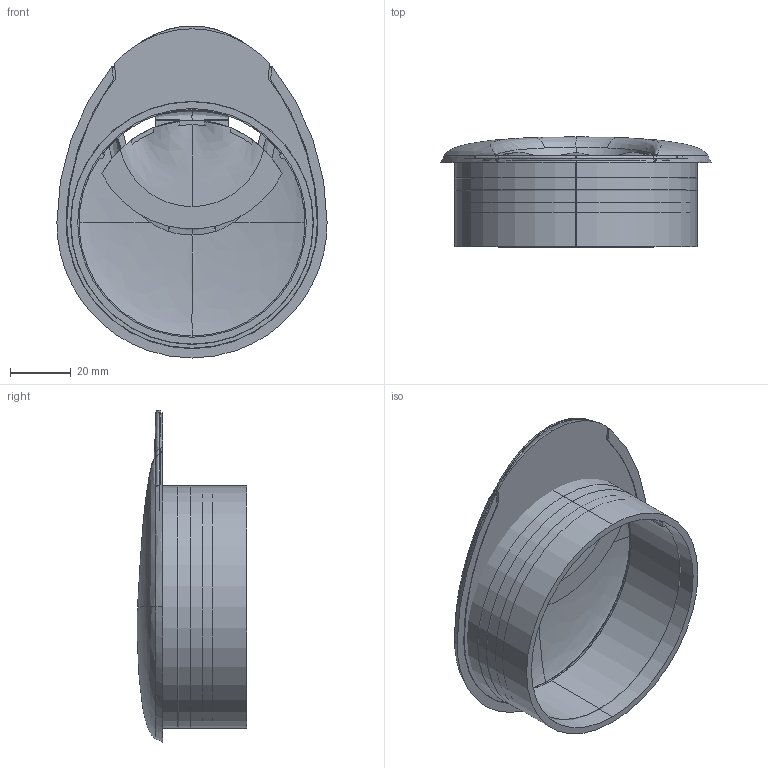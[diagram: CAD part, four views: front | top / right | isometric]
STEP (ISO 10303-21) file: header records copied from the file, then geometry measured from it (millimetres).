
FILE_DESCRIPTION((''),'2;1');
FILE_NAME('1759ASA_ASM','2023-07-05T12:35:09',('dennisg'),(''),'CREO PARAMETRIC BY PTC INC, 2022284','CREO PARAMETRIC BY PTC INC, 2022284','');
FILE_SCHEMA(('CONFIG_CONTROL_DESIGN'));
Length unit declared in the file: millimetre
Products named in the file (3): 1757ASA; 1758ASA; 1759ASA_ASM
Assembly tree (2 placements, depth 2):
  1759ASA_ASM
    1757ASA
    1758ASA
Bounding box: 89.2 x 36.28 x 109.6 mm (x, y, z)
Volume: 28929.8 mm3; surface area: 74220.6 mm2
Topology: 2 solids, 4 shells, 282 faces, 745 edges, 458 vertices
Faces by surface type: bspline 176, plane 42, cylinder 36, torus 10, extrusion 10, cone 8
Entity records: 22019 total; most frequent: CARTESIAN_POINT 16468, ORIENTED_EDGE 1404, EDGE_CURVE 741, DIRECTION 627, B_SPLINE_CURVE_WITH_KNOTS 487, VERTEX_POINT 458, EDGE_LOOP 295, FACE_OUTER_BOUND 282
